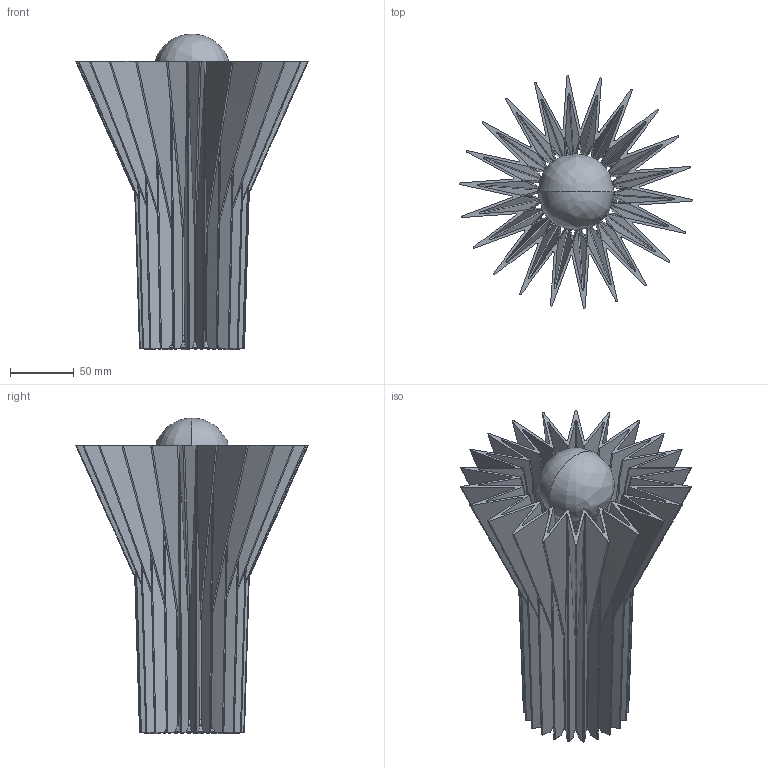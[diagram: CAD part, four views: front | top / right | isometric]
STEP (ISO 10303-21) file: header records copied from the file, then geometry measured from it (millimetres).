
FILE_DESCRIPTION((''),'2;1');
FILE_NAME('AS_E27_AJ_SW0002','2025-05-20T08:43:55',('elena.baldelli'),(''),'CREO PARAMETRIC BY PTC INC, 2020354','CREO PARAMETRIC BY PTC INC, 2020354','');
FILE_SCHEMA(('CONFIG_CONTROL_DESIGN'));
Length unit declared in the file: millimetre
Products named in the file (1): AS_E27_AJ_SW0002
Bounding box: 182.52 x 182.51 x 247.19 mm (x, y, z)
Surface area: 417577.4 mm2 (no closed solid volume)
Topology: 0 solids, 20 shells, 575 faces, 2031 edges, 1376 vertices
Faces by surface type: cylinder 176, bspline 159, plane 151, sphere 48, cone 37, torus 4
Entity records: 35624 total; most frequent: CARTESIAN_POINT 20976, ORIENTED_EDGE 3361, DIRECTION 2168, EDGE_CURVE 1977, VERTEX_POINT 1376, B_SPLINE_CURVE_WITH_KNOTS 1023, AXIS2_PLACEMENT_3D 798, EDGE_LOOP 606
